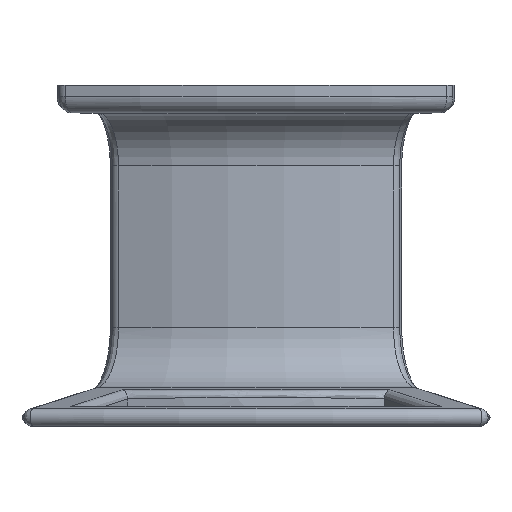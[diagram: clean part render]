
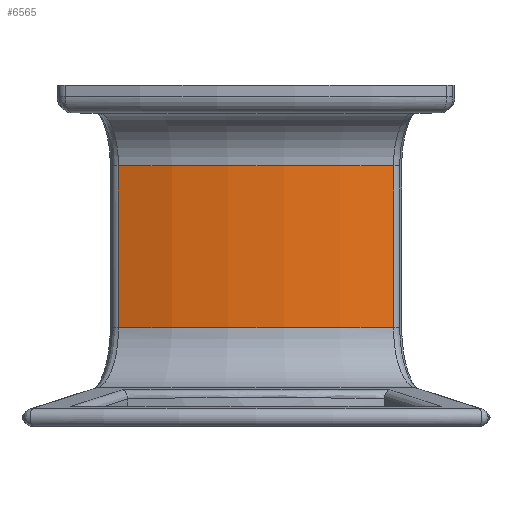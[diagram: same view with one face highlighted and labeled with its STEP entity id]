
A CAD part, top view. The second image highlights one B-rep face of the part: STEP entity #6565.
In plain terms, the highlighted cylindrical face has radius 140 mm (diameter 280 mm), a partial arc.
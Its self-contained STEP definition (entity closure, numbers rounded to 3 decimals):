
#5195 = EDGE_CURVE('',#5196,#5198,#5200,.T.);
#5196 = VERTEX_POINT('',#5197);
#5197 = CARTESIAN_POINT('',(49.646,-87.462,
    -9.098));
#5198 = VERTEX_POINT('',#5199);
#5199 = CARTESIAN_POINT('',(-49.646,-87.462,
    -9.098));
#5200 = CIRCLE('',#5201,140.);
#5201 = AXIS2_PLACEMENT_3D('',#5202,#5203,#5204);
#5202 = CARTESIAN_POINT('',(0.,-87.462,-140.));
#5203 = DIRECTION('',(0.,-1.,0.));
#5204 = DIRECTION('',(0.383,0.,0.924)
  );
#6565 = ADVANCED_FACE('',(#6566),#6592,.T.);
#6566 = FACE_BOUND('',#6567,.T.);
#6567 = EDGE_LOOP('',(#6568,#6579,#6585,#6586));
#6568 = ORIENTED_EDGE('',*,*,#6569,.T.);
#6569 = EDGE_CURVE('',#6570,#6572,#6574,.T.);
#6570 = VERTEX_POINT('',#6571);
#6571 = CARTESIAN_POINT('',(49.646,-29.03,
    -9.098));
#6572 = VERTEX_POINT('',#6573);
#6573 = CARTESIAN_POINT('',(-49.646,-29.03,
    -9.098));
#6574 = CIRCLE('',#6575,140.);
#6575 = AXIS2_PLACEMENT_3D('',#6576,#6577,#6578);
#6576 = CARTESIAN_POINT('',(0.,-29.03,-140.));
#6577 = DIRECTION('',(0.,-1.,0.));
#6578 = DIRECTION('',(0.383,0.,0.924)
  );
#6579 = ORIENTED_EDGE('',*,*,#6580,.F.);
#6580 = EDGE_CURVE('',#5198,#6572,#6581,.T.);
#6581 = LINE('',#6582,#6583);
#6582 = CARTESIAN_POINT('',(-49.646,-87.462,
    -9.098));
#6583 = VECTOR('',#6584,1.);
#6584 = DIRECTION('',(0.,1.,0.));
#6585 = ORIENTED_EDGE('',*,*,#5195,.F.);
#6586 = ORIENTED_EDGE('',*,*,#6587,.T.);
#6587 = EDGE_CURVE('',#5196,#6570,#6588,.T.);
#6588 = LINE('',#6589,#6590);
#6589 = CARTESIAN_POINT('',(49.646,-87.462,
    -9.098));
#6590 = VECTOR('',#6591,1.);
#6591 = DIRECTION('',(0.,1.,0.));
#6592 = CYLINDRICAL_SURFACE('',#6593,140.);
#6593 = AXIS2_PLACEMENT_3D('',#6594,#6595,#6596);
#6594 = CARTESIAN_POINT('',(0.,-29.03,-140.));
#6595 = DIRECTION('',(0.,-1.,0.));
#6596 = DIRECTION('',(0.383,0.,0.924)
  );
